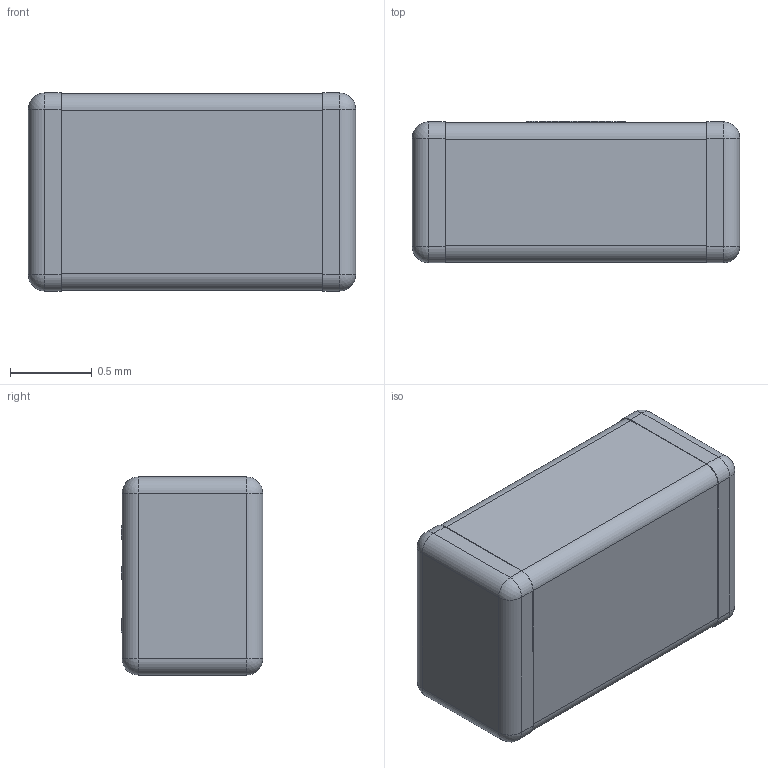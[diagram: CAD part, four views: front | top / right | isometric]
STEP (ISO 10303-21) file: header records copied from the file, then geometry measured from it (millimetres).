
FILE_DESCRIPTION((''),'2;1');
FILE_NAME('CAP_0805_T085_CERAMIC','2024-11-10T17:56:39',('Roger'),(''),'CREO PARAMETRIC BY PTC INC, 2020053','CREO PARAMETRIC BY PTC INC, 2020053','');
FILE_SCHEMA(('CONFIG_CONTROL_DESIGN'));
Length unit declared in the file: millimetre
Products named in the file (1): CAP_0805_T085_CERAMIC
Bounding box: 2 x 0.86 x 1.21 mm (x, y, z)
Volume: 2 mm3; surface area: 9.7 mm2
Topology: 1 solids, 1 shells, 852 faces, 2412 edges, 1600 vertices
Faces by surface type: plane 824, cylinder 20, sphere 8
Entity records: 27062 total; most frequent: CARTESIAN_POINT 4864, ORIENTED_EDGE 4824, DIRECTION 4156, EDGE_CURVE 2412, VECTOR 2372, LINE 2372, VERTEX_POINT 1600, AXIS2_PLACEMENT_3D 892
